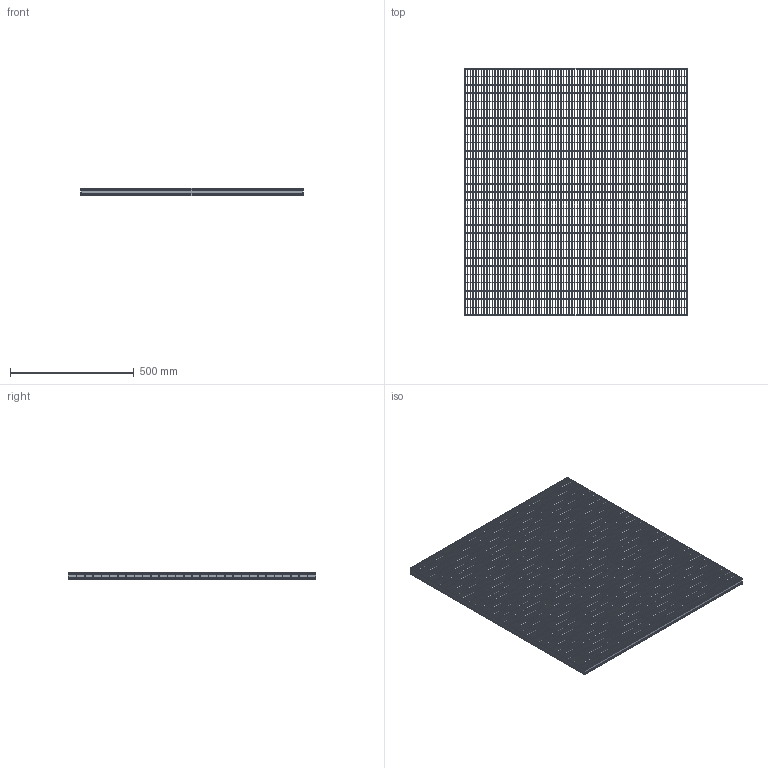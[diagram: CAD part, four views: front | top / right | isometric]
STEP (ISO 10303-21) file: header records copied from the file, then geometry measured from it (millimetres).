
FILE_DESCRIPTION(/* description */ ('STEP AP242','CAx-IF Rec.Pracs.---Representation and Presentation of Product Manufacturing Information (PMI)---4.0---2014-10-13','CAx-IF Rec.Pracs.---3D Tessellated Geometry---0.4---2014-09-14','2;1'),/* implementation_level */ '2;1');
FILE_NAME(/* name */ 'Lichtgitter_Pressure_locked_gratings P 230-33_11-2-1-1-900-1000_(350_0)',/* time_stamp */ '2026-04-23T10:12:45+02:00',/* author */ ('License CC BY-ND 4.0'),/* organization */ ('CADENAS'),/* preprocessor_version */ 'ST-DEVELOPER v20',/* originating_system */ 'PARTsolutions',/* authorisation */ ' ');
FILE_SCHEMA (('AP242_MANAGED_MODEL_BASED_3D_ENGINEERING_MIM_LF { 1 0 10303 442 1 1 4 }'));
Length unit declared in the file: millimetre
Products named in the file (5): Lichtgitter_Pressure_locked_gratings P 230-33/11-2-1-1-900-1000_(350_
0); Lichtgitter P 230-11.11/33-2_(Pressroste_350_1_1000_900)_VERTICAL; Lichtgitter P 230-11.11/33-2_(Pressroste_350_1_1000_900)_HORIZONTAL_C; Lichtgitter P 230-11.11/33-2_(Pressroste_350_1_1000_900)_HORIZONTAL; Lichtgitter P 230-11.11/33-2_(Pressroste_350_1_1000_900)_VERTICAL_C
Assembly tree (113 placements, depth 2):
  Lichtgitter_Pressure_locked_gratings P 230-33/11-2-1-1-900-1000_(350_
0)
    Lichtgitter P 230-11.11/33-2_(Pressroste_350_1_1000_900)_VERTICAL  x2
    Lichtgitter P 230-11.11/33-2_(Pressroste_350_1_1000_900)_HORIZONTAL_C  x29
    Lichtgitter P 230-11.11/33-2_(Pressroste_350_1_1000_900)_HORIZONTAL  x2
    Lichtgitter P 230-11.11/33-2_(Pressroste_350_1_1000_900)_VERTICAL_C  x80
Bounding box: 900 x 1000 x 30 mm (x, y, z)
Volume: 3318781.7 mm3; surface area: 3843576.5 mm2
Topology: 113 solids, 113 shells, 10006 faces, 29340 edges, 19560 vertices
Faces by surface type: plane 9974, cylinder 32
Entity records: 12987 total; most frequent: CARTESIAN_POINT 2282, ORIENTED_EDGE 2160, DIRECTION 2076, EDGE_CURVE 1080, LINE 1048, VECTOR 1048, VERTEX_POINT 720, AXIS2_PLACEMENT_3D 514
